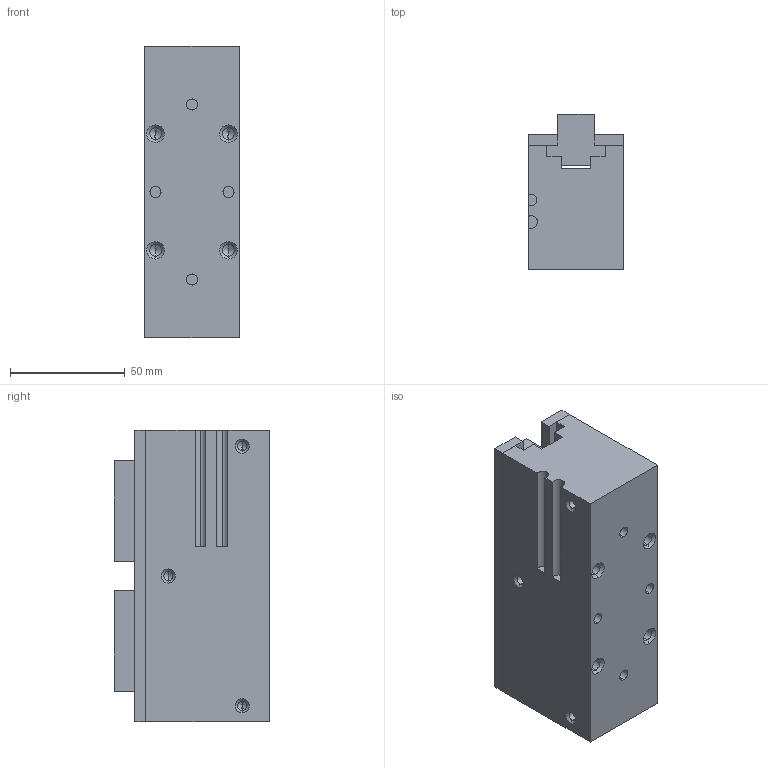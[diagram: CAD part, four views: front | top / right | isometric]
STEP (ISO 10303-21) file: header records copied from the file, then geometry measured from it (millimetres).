
FILE_DESCRIPTION (( 'STEP AP203' ), '1' );
FILE_NAME ('AGLP-8-500-open.STEP', '2020-04-15T21:07:52', ( '' ), ( '' ), 'SwSTEP 2.0', 'SolidWorks 2016', '' );
FILE_SCHEMA (( 'CONFIG_CONTROL_DESIGN' ));
Length unit declared in the file: inch
Products named in the file (4): aglp8-8002A; aglp8-8006; AGLP-8-500-open; aglp8-8001
Assembly tree (4 placements, depth 2):
  AGLP-8-500-open
    aglp8-8001
    aglp8-8002A  x2
    aglp8-8006
Bounding box: 41.27 x 67.57 x 127 mm (x, y, z)
Volume: 302716.1 mm3; surface area: 55175.9 mm2
Topology: 4 solids, 4 shells, 200 faces, 484 edges, 297 vertices
Faces by surface type: plane 82, cylinder 74, cone 44
Entity records: 5142 total; most frequent: DIRECTION 870, CARTESIAN_POINT 792, ORIENTED_EDGE 756, EDGE_CURVE 378, AXIS2_PLACEMENT_3D 321, VERTEX_POINT 243, VECTOR 228, LINE 228
